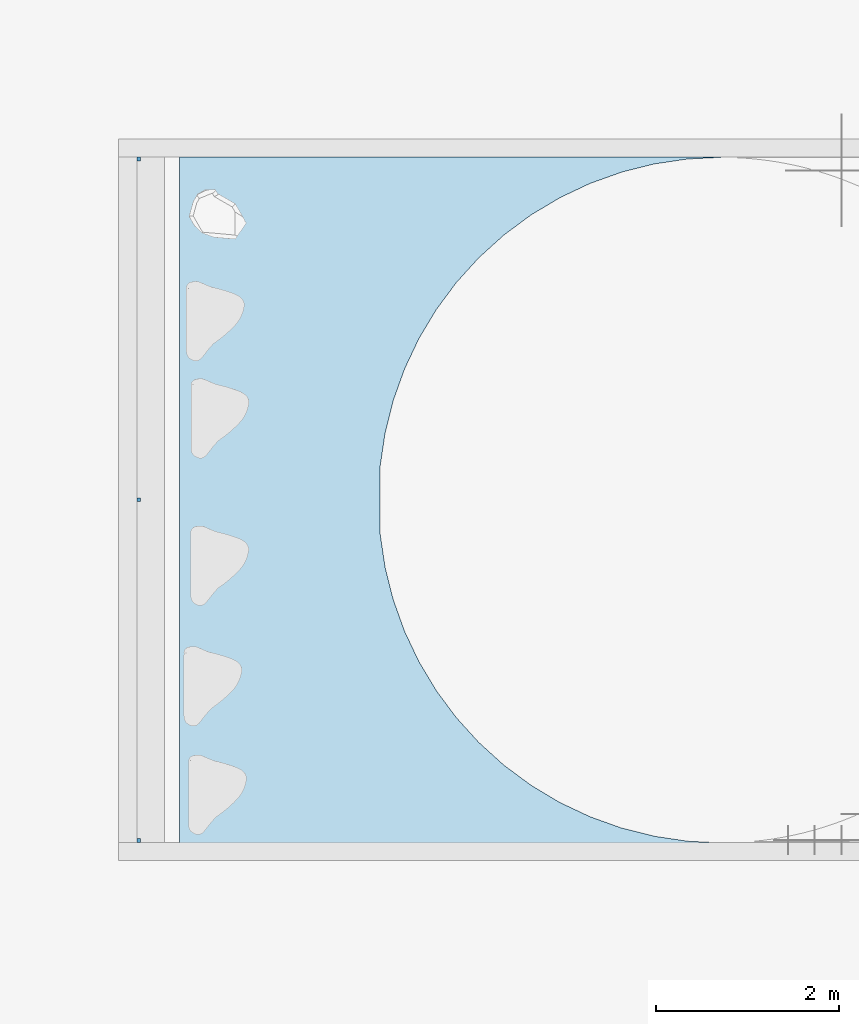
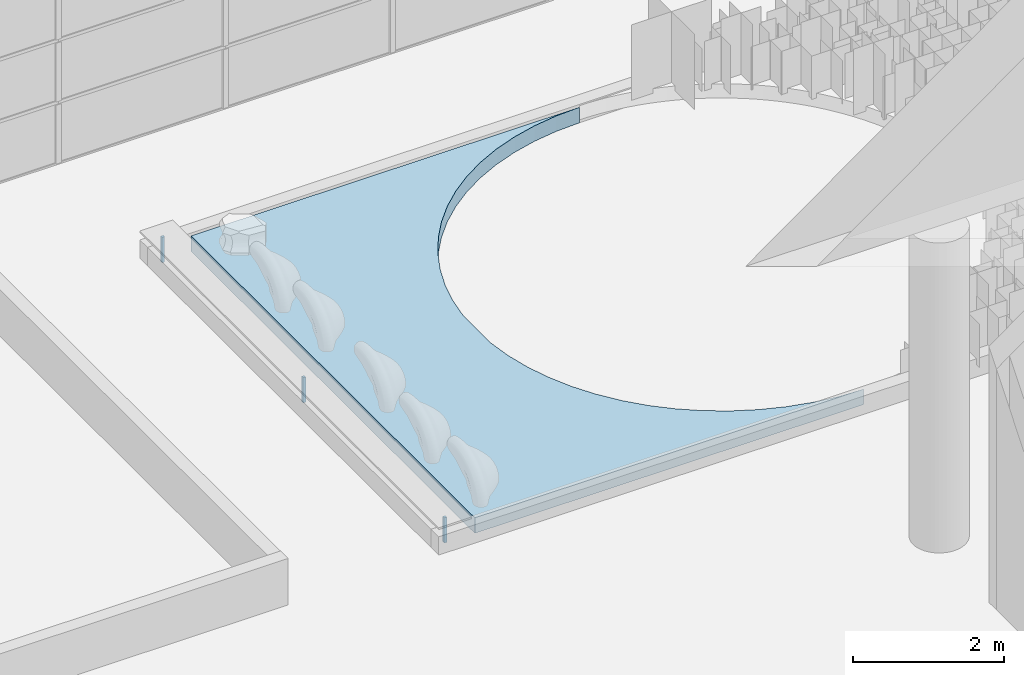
# One storey, part 1 of 105: 4 slabs.
"""IFC4 building model written with IfcOpenShell, lengths in millimetres."""

from ifc_helpers import new_model, entity, si_unit, converted_unit, derived_unit, direction, frame, origin_with_axes, place, context, subcontext, project, spatial, line, indexed_curve, outline, extrude, source, transform, mapped, material, element, save


model = new_model("IFC4")

# Units and contexts
model_context = context("Model", 3, precision=1e-05, world=origin_with_axes(), true_north=direction((0.0, 1.0)))
body_context = subcontext(model_context, "Body", "Model", "MODEL_VIEW")
ifc_project = project(units=[si_unit("LENGTHUNIT", "METRE", prefix="MILLI"), si_unit("AREAUNIT", "SQUARE_METRE"), si_unit("VOLUMEUNIT", "CUBIC_METRE"), converted_unit("PLANEANGLEUNIT", "DEGREE", entity("IfcLengthMeasure", 0.017453), si_unit("PLANEANGLEUNIT", "RADIAN"), dimensions=[0, 0, 0, 0, 0, 0, 0]), si_unit("SOLIDANGLEUNIT", "STERADIAN"), si_unit("MASSUNIT", "GRAM"), si_unit("TIMEUNIT", "SECOND"), si_unit("THERMODYNAMICTEMPERATUREUNIT", "DEGREE_CELSIUS"), si_unit("LUMINOUSINTENSITYUNIT", "LUMEN"), si_unit("POWERUNIT", "WATT"), derived_unit("THERMALTRANSMITTANCEUNIT", [(si_unit("POWERUNIT", "WATT"), 1), (si_unit("THERMODYNAMICTEMPERATUREUNIT", "KELVIN"), -1), (si_unit("AREAUNIT", "SQUARE_METRE"), -1)])], contexts=[model_context])

# Site, building, storey
site_placement = place(None, origin_with_axes())
site = spatial("IfcSite", under=ifc_project, at=site_placement, Name="Default Site", CompositionType="ELEMENT")
building_placement = place(site_placement, origin_with_axes())
building = spatial("IfcBuilding", under=site, at=building_placement, Name="Default Building", CompositionType="ELEMENT")
storey_placement = place(building_placement, origin_with_axes())
storey = spatial("IfcBuildingStorey", under=building, at=storey_placement, Name="OG - Story", CompositionType="ELEMENT", Elevation=0.0)

# Slabs
ifc_material = material(Name="Default")
shared_shape_1 = source(origin_with_axes(), body_context, "Body", "SweptSolid", [
    extrude(outline(indexed_curve([(76779.438, -30479.262), (76819.438, -30479.262), (76819.438, -30439.262), (76779.438, -30439.262)], segments=[line(1, 2), line(2, 3), line(3, 4), line(4, 1)])), frame((0.0, 0.0, 3000.0), z_axis=(0.0, 0.0, 1.0), x_axis=(1.0, 0.0, 0.0)), (0.0, 0.0, 1.0), 410.0),
])
slab_1_placement = place(storey_placement, frame((140847.45726, 0.0, 0.0), z_axis=(0.0, 0.0, 1.0), x_axis=(-1.0, 0.0, 0.0)))
element("IfcSlab", 1, at=slab_1_placement, inside=storey, material=ifc_material, Name="IfcSlab", context=body_context, shape_type="MappedRepresentation", body=[
    mapped(shared_shape_1, transform((0.0, 0.0, 0.0), x_axis=(1.0, 0.0, 0.0), y_axis=(0.0, -1.0, 0.0), z_axis=(0.0, 0.0, 1.0), scale=1.0)),
])
shared_shape_2 = source(origin_with_axes(), body_context, "Body", "SweptSolid", [
    extrude(outline(indexed_curve([(76779.438, -30479.262), (76819.438, -30479.262), (76819.438, -30439.262), (76779.438, -30439.262)], segments=[line(1, 2), line(2, 3), line(3, 4), line(4, 1)])), frame((0.0, 0.0, 3000.0), z_axis=(0.0, 0.0, 1.0), x_axis=(1.0, 0.0, 0.0)), (0.0, 0.0, 1.0), 410.0),
])
slab_2_placement = place(storey_placement, frame((140847.455148, -3730.737162, 0.0), z_axis=(0.0, 0.0, 1.0), x_axis=(-1.0, 0.0, 0.0)))
element("IfcSlab", 2, at=slab_2_placement, inside=storey, material=ifc_material, Name="IfcSlab", context=body_context, shape_type="MappedRepresentation", body=[
    mapped(shared_shape_2, transform((0.0, 0.0, 0.0), x_axis=(1.0, 0.0, 0.0), y_axis=(0.0, -1.0, 0.0), z_axis=(0.0, 0.0, 1.0), scale=1.0)),
])
shared_shape_3 = source(origin_with_axes(), body_context, "Body", "SweptSolid", [
    extrude(outline(indexed_curve([(76779.438, -30479.262), (76819.438, -30479.262), (76819.438, -30439.262), (76779.438, -30439.262)], segments=[line(1, 2), line(2, 3), line(3, 4), line(4, 1)])), frame((0.0, 0.0, 3000.0), z_axis=(0.0, 0.0, 1.0), x_axis=(1.0, 0.0, 0.0)), (0.0, 0.0, 1.0), 410.0),
])
slab_3_placement = place(storey_placement, frame((140847.45726, -7460.0, 0.0), z_axis=(0.0, 0.0, 1.0), x_axis=(-1.0, 0.0, 0.0)))
element("IfcSlab", 3, at=slab_3_placement, inside=storey, material=ifc_material, Name="IfcSlab", context=body_context, shape_type="MappedRepresentation", body=[
    mapped(shared_shape_3, transform((0.0, 0.0, 0.0), x_axis=(1.0, 0.0, 0.0), y_axis=(0.0, -1.0, 0.0), z_axis=(0.0, 0.0, 1.0), scale=1.0)),
])
slab_4_placement = place(storey_placement, origin_with_axes())
element("IfcSlab", 4, at=slab_4_placement, inside=storey, material=ifc_material, Name="IfcSlab", context=body_context, shape_type="SweptSolid", body=[
    extrude(outline(indexed_curve([(70423.729, -37944.571), (70056.02, -37926.507), (69691.853, -37872.488), (69334.735, -37783.034), (68988.103, -37659.007), (68655.298, -37501.602), (68339.524, -37312.334), (68043.822, -37093.027), (67771.039, -36845.791), (67523.804, -36573.009), (67304.496, -36277.306), (67115.228, -35961.532), (66957.823, -35628.727), (66833.796, -35282.096), (66744.343, -34924.977), (66690.324, -34560.81), (66690.324, -33825.393), (66744.343, -33461.226), (66833.796, -33104.107), (66957.823, -32757.476), (67115.228, -32424.671), (67304.496, -32108.897), (67523.804, -31813.195), (67771.039, -31540.412), (68043.822, -31293.176), (68339.524, -31073.869), (68655.298, -30884.601), (68988.103, -30727.196), (69334.735, -30603.169), (69691.853, -30513.716), (70056.02, -30459.696), (70423.729, -30441.632), (70423.729, -30440.379), (64492.454, -30440.379), (64492.454, -37944.571)], segments=[line(1, 2), line(2, 3), line(3, 4), line(4, 5), line(5, 6), line(6, 7), line(7, 8), line(8, 9), line(9, 10), line(10, 11), line(11, 12), line(12, 13), line(13, 14), line(14, 15), line(15, 16), line(16, 17), line(17, 18), line(18, 19), line(19, 20), line(20, 21), line(21, 22), line(22, 23), line(23, 24), line(24, 25), line(25, 26), line(26, 27), line(27, 28), line(28, 29), line(29, 30), line(30, 31), line(31, 32), line(32, 33), line(33, 34), line(34, 35), line(35, 1)])), frame((0.0, 0.0, 3000.0), z_axis=(0.0, 0.0, 1.0), x_axis=(1.0, 0.0, 0.0)), (0.0, 0.0, 1.0), 250.0),
])

save(model, "model.ifc")
